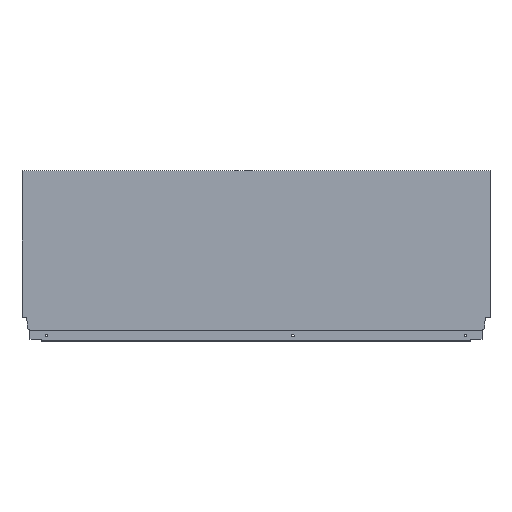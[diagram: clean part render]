
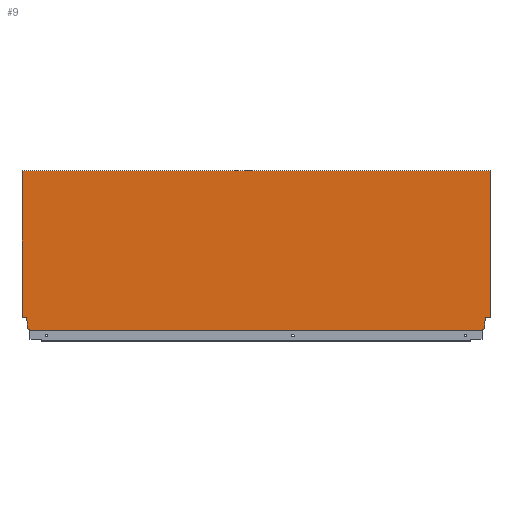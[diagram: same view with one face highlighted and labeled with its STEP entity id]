
A CAD part, top view. The second image highlights one B-rep face of the part: STEP entity #9.
In plain terms, the highlighted planar face has unit normal (0, 0, 1).
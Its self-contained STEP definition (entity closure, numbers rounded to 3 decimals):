
#9 = ADVANCED_FACE ( 'NONE', ( #1285 ), #860, .T. ) ;
#51 = CARTESIAN_POINT ( 'NONE',  ( -763., 21.2, 8. ) ) ;
#72 = CARTESIAN_POINT ( 'NONE',  ( -754.1, 2.64, 8. ) ) ;
#75 = CARTESIAN_POINT ( 'NONE',  ( -13.004, 1.146, 8. ) ) ;
#122 = CARTESIAN_POINT ( 'NONE',  ( 0., 260.7, 8. ) ) ;
#128 = CARTESIAN_POINT ( 'NONE',  ( -13.004, 0., 8. ) ) ;
#129 = CARTESIAN_POINT ( 'NONE',  ( 0., 21.2, 8. ) ) ;
#132 = CARTESIAN_POINT ( 'NONE',  ( -763., 260.7, 8. ) ) ;
#133 = CARTESIAN_POINT ( 'NONE',  ( -754.1, 10.765, 8. ) ) ;
#137 = CARTESIAN_POINT ( 'NONE',  ( -8.9, 10.765, 8. ) ) ;
#143 = CARTESIAN_POINT ( 'NONE',  ( -749.996, 1.146, 8. ) ) ;
#147 = CARTESIAN_POINT ( 'NONE',  ( -755.94, 21.2, 8. ) ) ;
#152 = CARTESIAN_POINT ( 'NONE',  ( -749.996, 0., 8. ) ) ;
#153 = CARTESIAN_POINT ( 'NONE',  ( -8.9, 2.64, 8. ) ) ;
#154 = CARTESIAN_POINT ( 'NONE',  ( -7.06, 21.2, 8. ) ) ;
#159 = LINE ( 'NONE', #451, #160 ) ;
#160 = VECTOR ( 'NONE', #442, 1000. ) ;
#161 = LINE ( 'NONE', #435, #162 ) ;
#162 = VECTOR ( 'NONE', #434, 1000. ) ;
#163 = LINE ( 'NONE', #441, #164 ) ;
#164 = VECTOR ( 'NONE', #454, 1000. ) ;
#165 = LINE ( 'NONE', #542, #166 ) ;
#166 = VECTOR ( 'NONE', #538, 1000. ) ;
#310 = EDGE_CURVE ( 'NONE', #993, #941, #1526, .T. ) ;
#312 = EDGE_CURVE ( 'NONE', #988, #916, #1530, .T. ) ;
#314 = EDGE_CURVE ( 'NONE', #916, #972, #1534, .T. ) ;
#315 = EDGE_CURVE ( 'NONE', #941, #988, #1536, .T. ) ;
#316 = EDGE_CURVE ( 'NONE', #972, #913, #1538, .T. ) ;
#317 = EDGE_CURVE ( 'NONE', #913, #922, #1540, .T. ) ;
#318 = EDGE_CURVE ( 'NONE', #993, #933, #1542, .T. ) ;
#319 = EDGE_CURVE ( 'NONE', #922, #991, #1521, .T. ) ;
#320 = EDGE_CURVE ( 'NONE', #958, #975, #576, .T. ) ;
#321 = EDGE_CURVE ( 'NONE', #975, #945, #159, .T. ) ;
#322 = EDGE_CURVE ( 'NONE', #945, #904, #161, .T. ) ;
#323 = EDGE_CURVE ( 'NONE', #904, #933, #163, .T. ) ;
#324 = EDGE_CURVE ( 'NONE', #909, #991, #165, .T. ) ;
#327 = EDGE_CURVE ( 'NONE', #909, #958, #1529, .T. ) ;
#349 = AXIS2_PLACEMENT_3D ( 'NONE', #855, #835, #832 ) ;
#421 = CARTESIAN_POINT ( 'NONE',  ( -8.9, 10.765, 8. ) ) ;
#422 = CARTESIAN_POINT ( 'NONE',  ( -13.004, 1.146, 8. ) ) ;
#423 = DIRECTION ( 'NONE',  ( 0., -1., 0. ) ) ;
#424 = DIRECTION ( 'NONE',  ( -1., 0., 0. ) ) ;
#425 = CARTESIAN_POINT ( 'NONE',  ( -7.06, 21.2, 8. ) ) ;
#426 = CARTESIAN_POINT ( 'NONE',  ( 0., 0., 8. ) ) ;
#427 = CARTESIAN_POINT ( 'NONE',  ( -8.9, 2.64, 8. ) ) ;
#428 = DIRECTION ( 'NONE',  ( 0., -1., 0. ) ) ;
#429 = CARTESIAN_POINT ( 'NONE',  ( -763., 0., 8. ) ) ;
#430 = CARTESIAN_POINT ( 'NONE',  ( -763., 260.7, 8. ) ) ;
#431 = CARTESIAN_POINT ( 'NONE',  ( -754.1, 2.64, 8. ) ) ;
#432 = DIRECTION ( 'NONE',  ( -0.94, 0.342, 0. ) ) ;
#433 = CARTESIAN_POINT ( 'NONE',  ( 0., 21.2, 8. ) ) ;
#434 = DIRECTION ( 'NONE',  ( -0.174, 0.985, 0. ) ) ;
#435 = CARTESIAN_POINT ( 'NONE',  ( -755.94, 21.2, 8. ) ) ;
#437 = DIRECTION ( 'NONE',  ( 0., -1., 0. ) ) ;
#438 = DIRECTION ( 'NONE',  ( 1., 0., 0. ) ) ;
#439 = DIRECTION ( 'NONE',  ( 0., -1., 0. ) ) ;
#441 = CARTESIAN_POINT ( 'NONE',  ( -768., 21.2, 8. ) ) ;
#442 = DIRECTION ( 'NONE',  ( 0., 1., 0. ) ) ;
#451 = CARTESIAN_POINT ( 'NONE',  ( -754.1, 10.765, 8. ) ) ;
#453 = DIRECTION ( 'NONE',  ( -0.174, -0.985, 0. ) ) ;
#454 = DIRECTION ( 'NONE',  ( -1., 0., 0. ) ) ;
#456 = DIRECTION ( 'NONE',  ( -0.94, -0.342, 0. ) ) ;
#464 = CARTESIAN_POINT ( 'NONE',  ( -749.996, 1.146, 8. ) ) ;
#466 = DIRECTION ( 'NONE',  ( 0., 1., 0. ) ) ;
#538 = DIRECTION ( 'NONE',  ( 1., 0., 0. ) ) ;
#542 = CARTESIAN_POINT ( 'NONE',  ( -763., 0., 8. ) ) ;
#576 = LINE ( 'NONE', #431, #665 ) ;
#665 = VECTOR ( 'NONE', #432, 1000. ) ;
#711 = EDGE_LOOP ( 'NONE', ( #742, #743, #744, #745, #746, #747, #748, #750, #751, #752, #753, #754, #755, #756 ) ) ;
#742 = ORIENTED_EDGE ( 'NONE', *, *, #318, .T. ) ;
#743 = ORIENTED_EDGE ( 'NONE', *, *, #323, .F. ) ;
#744 = ORIENTED_EDGE ( 'NONE', *, *, #322, .F. ) ;
#745 = ORIENTED_EDGE ( 'NONE', *, *, #321, .F. ) ;
#746 = ORIENTED_EDGE ( 'NONE', *, *, #320, .F. ) ;
#747 = ORIENTED_EDGE ( 'NONE', *, *, #327, .F. ) ;
#748 = ORIENTED_EDGE ( 'NONE', *, *, #324, .T. ) ;
#750 = ORIENTED_EDGE ( 'NONE', *, *, #319, .F. ) ;
#751 = ORIENTED_EDGE ( 'NONE', *, *, #317, .F. ) ;
#752 = ORIENTED_EDGE ( 'NONE', *, *, #316, .F. ) ;
#753 = ORIENTED_EDGE ( 'NONE', *, *, #314, .F. ) ;
#754 = ORIENTED_EDGE ( 'NONE', *, *, #312, .F. ) ;
#755 = ORIENTED_EDGE ( 'NONE', *, *, #315, .F. ) ;
#756 = ORIENTED_EDGE ( 'NONE', *, *, #310, .F. ) ;
#832 = DIRECTION ( 'NONE',  ( 1., 0., 0. ) ) ;
#835 = DIRECTION ( 'NONE',  ( 0., 0., 1. ) ) ;
#855 = CARTESIAN_POINT ( 'NONE',  ( -763., 0., 8. ) ) ;
#860 = PLANE ( 'NONE',  #349 ) ;
#904 = VERTEX_POINT ( 'NONE', #147 ) ;
#909 = VERTEX_POINT ( 'NONE', #152 ) ;
#913 = VERTEX_POINT ( 'NONE', #153 ) ;
#916 = VERTEX_POINT ( 'NONE', #154 ) ;
#922 = VERTEX_POINT ( 'NONE', #75 ) ;
#933 = VERTEX_POINT ( 'NONE', #51 ) ;
#941 = VERTEX_POINT ( 'NONE', #122 ) ;
#945 = VERTEX_POINT ( 'NONE', #133 ) ;
#958 = VERTEX_POINT ( 'NONE', #143 ) ;
#972 = VERTEX_POINT ( 'NONE', #137 ) ;
#975 = VERTEX_POINT ( 'NONE', #72 ) ;
#988 = VERTEX_POINT ( 'NONE', #129 ) ;
#991 = VERTEX_POINT ( 'NONE', #128 ) ;
#993 = VERTEX_POINT ( 'NONE', #132 ) ;
#1285 = FACE_OUTER_BOUND ( 'NONE', #711, .T. ) ;
#1521 = LINE ( 'NONE', #422, #1544 ) ;
#1523 = VECTOR ( 'NONE', #466, 1000. ) ;
#1526 = LINE ( 'NONE', #430, #1527 ) ;
#1527 = VECTOR ( 'NONE', #438, 1000. ) ;
#1529 = LINE ( 'NONE', #464, #1523 ) ;
#1530 = LINE ( 'NONE', #433, #1531 ) ;
#1531 = VECTOR ( 'NONE', #424, 1000. ) ;
#1534 = LINE ( 'NONE', #425, #1535 ) ;
#1535 = VECTOR ( 'NONE', #453, 1000. ) ;
#1536 = LINE ( 'NONE', #426, #1537 ) ;
#1537 = VECTOR ( 'NONE', #423, 1000. ) ;
#1538 = LINE ( 'NONE', #421, #1539 ) ;
#1539 = VECTOR ( 'NONE', #428, 1000. ) ;
#1540 = LINE ( 'NONE', #427, #1541 ) ;
#1541 = VECTOR ( 'NONE', #456, 1000. ) ;
#1542 = LINE ( 'NONE', #429, #1543 ) ;
#1543 = VECTOR ( 'NONE', #439, 1000. ) ;
#1544 = VECTOR ( 'NONE', #437, 1000. ) ;
